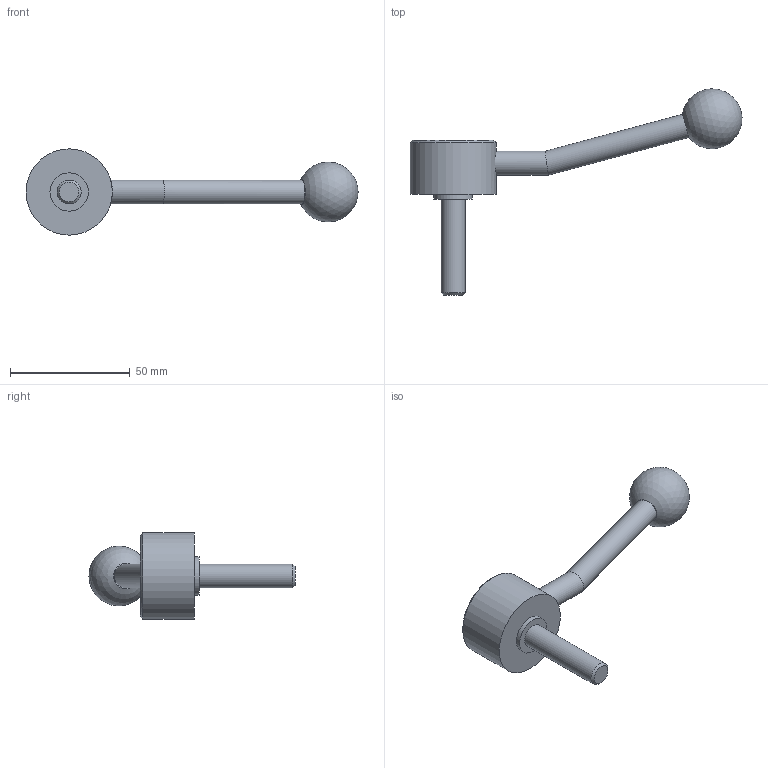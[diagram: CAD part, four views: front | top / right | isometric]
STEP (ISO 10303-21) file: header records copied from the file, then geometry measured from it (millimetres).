
FILE_DESCRIPTION( ( 'STEP AP203' ), '1' );
FILE_NAME( 'C:/Temp/Ganter_Step_05_03_2020/data/2_1/gn_125/gn_125_ms/gn_125_ms_e/Flat Adjustable Lever GN 125-36-M10-40-E.stp', '2020-03-05T11:00:58', ( 'License CC BY-ND 4.0' ), ( 'CADENAS' ), ' ', 'PARTsolutions', ' ' );
FILE_SCHEMA( ( 'CONFIG_CONTROL_DESIGN' ) );
Length unit declared in the file: millimetre
Products named in the file (1): _Flat Adjustable Lever GN 125-36-M10-40-E
Bounding box: 138.41 x 85.96 x 36 mm (x, y, z)
Volume: 40750.9 mm3; surface area: 10230.7 mm2
Topology: 1 solids, 1 shells, 15 faces, 25 edges, 16 vertices
Faces by surface type: cylinder 6, plane 6, cone 2, sphere 1
Full cylindrical faces by diameter (mm): 10 x3, 16 x1, 26 x1, 36 x1
Entity records: 412 total; most frequent: CARTESIAN_POINT 118, DIRECTION 58, AXIS2_PLACEMENT_3D 29, EDGE_LOOP 28, ORIENTED_EDGE 28, FACE_OUTER_BOUND 21, ADVANCED_FACE 15, VERTEX_POINT 15
